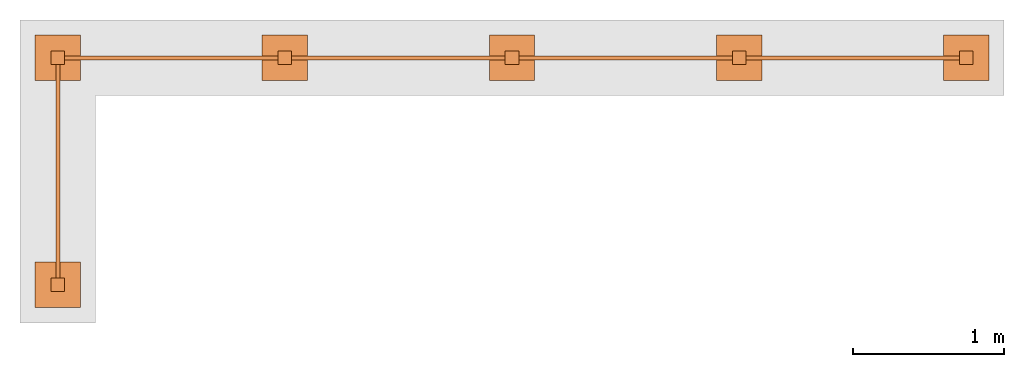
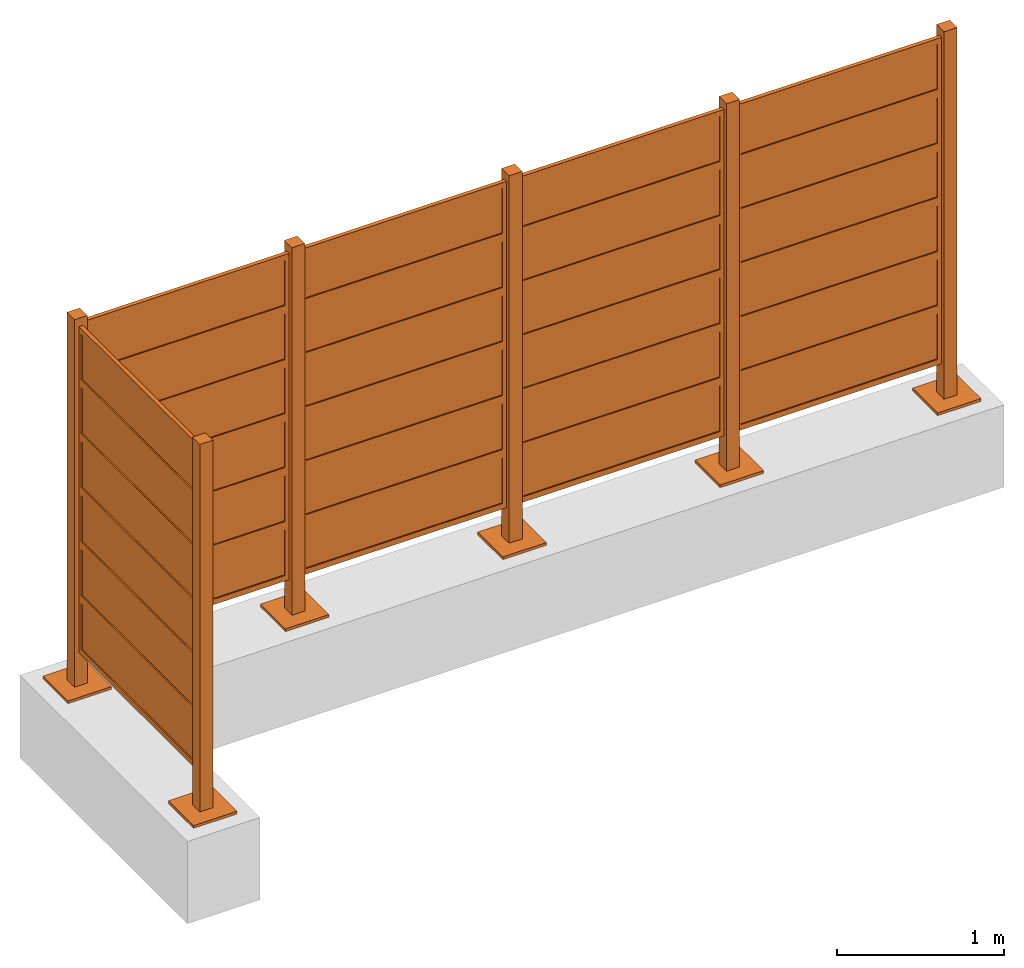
# One storey, part 2 of 2: 1 proxy.
"""IFC4 building model written with IfcOpenShell, lengths in metres."""

import ifcopenshell
import ifcopenshell.guid

model = None  # the IFC model being written
_history = None  # IfcOwnerHistory: only IFC2X3 demands one
_inside = {}  # id of a spatial element -> (the spatial element, [elements in it])
_under = {}  # id of a project, library or spatial element -> (it, [spatial elements below it])
_declared = {}  # id of a project -> (the project, [libraries it declares])
_typed = {}  # id of a type object -> (the type object, [elements of that type])
_made_of = {}  # id of a material, layer set ... -> (it, [elements and type objects made of it])


def new_model(schema):
    """Start an empty IFC model of exactly this schema.

    Asked for "IFC4X3", IfcOpenShell would pick the latest addendum, in which some entities
    have other attributes; the version numbers below select the first issue.
    IFC2X3 requires an IfcOwnerHistory on every rooted entity: one is made here for all.
    """
    global model, _history
    if schema == "IFC4X3":
        model = ifcopenshell.file(schema_version=(4, 3, 0, 0))
    else:
        model = ifcopenshell.file(schema=schema)
    _inside.clear()
    _under.clear()
    _declared.clear()
    _typed.clear()
    _made_of.clear()
    _history = None
    if model.schema == "IFC2X3":
        org = make("IfcOrganization", Name="unknown")
        user = make(
            "IfcPersonAndOrganization",
            ThePerson=make("IfcPerson", FamilyName="unknown"),
            TheOrganization=org,
        )
        app = make(
            "IfcApplication",
            ApplicationDeveloper=org,
            Version="unknown",
            ApplicationFullName="unknown",
            ApplicationIdentifier="unknown",
        )
        _history = make(
            "IfcOwnerHistory",
            OwningUser=user,
            OwningApplication=app,
            ChangeAction="ADDED",
            CreationDate=0,
        )
    return model


def make(cls, **values):
    """One entity of the class cls with the attributes given. An attribute that is None is left unset."""
    return model.create_entity(
        cls, **{name: value for name, value in values.items() if value is not None}
    )


def entity(cls, *values):
    """Any entity or typed value of the class cls, its attributes in the order of the schema. None: left unset."""
    e = model.create_entity(cls)
    for i, value in enumerate(values):
        if value is not None:
            e[i] = value
    return e


def rooted(cls, **values):
    """An entity with a GlobalId (a new one), such as an element, a storey or a relation."""
    return make(cls, GlobalId=ifcopenshell.guid.new(), OwnerHistory=_history, **values)


def si_unit(unit_type, name, prefix=None):
    """IfcSIUnit, for example si_unit("LENGTHUNIT", "METRE", prefix="MILLI")."""
    return make("IfcSIUnit", UnitType=unit_type, Prefix=prefix, Name=name)


def converted_unit(unit_type, name, factor, base, dimensions=None, offset=None):
    """IfcConversionBasedUnit, such as the inch: factor (a typed value) times the base unit."""
    return make(
        "IfcConversionBasedUnit"
        if offset is None
        else "IfcConversionBasedUnitWithOffset",
        ConversionOffset=offset,
        Dimensions=None
        if dimensions is None
        else entity("IfcDimensionalExponents", *dimensions),
        UnitType=unit_type,
        Name=name,
        ConversionFactor=make(
            "IfcMeasureWithUnit", ValueComponent=factor, UnitComponent=base
        ),
    )


def assignment(units):
    """IfcUnitAssignment: the units of a project."""
    return None if units is None else make("IfcUnitAssignment", Units=units)


def point(xyz):
    """IfcCartesianPoint."""
    return None if xyz is None else make("IfcCartesianPoint", Coordinates=xyz)


def direction(xyz):
    """IfcDirection."""
    return None if xyz is None else make("IfcDirection", DirectionRatios=xyz)


def frame(location, z_axis=None, x_axis=None):
    """IfcAxis2Placement3D, a coordinate frame: its origin and axes. An axis left out is left unset."""
    return make(
        "IfcAxis2Placement3D",
        Location=point(location),
        Axis=direction(z_axis),
        RefDirection=direction(x_axis),
    )


def frame_2d(location, x_axis=None):
    """IfcAxis2Placement2D, a coordinate frame in the plane: its origin and x axis."""
    return make(
        "IfcAxis2Placement2D", Location=point(location), RefDirection=direction(x_axis)
    )


def origin():
    """The frame at (0, 0, 0) with its axes left unset."""
    return frame((0.0, 0.0, 0.0))


def origin_2d_with_axis():
    """The frame at (0, 0) in the plane with the x axis (1, 0) written out."""
    return frame_2d((0.0, 0.0), x_axis=(1.0, 0.0))


def place(relative_to, where):
    """IfcLocalPlacement: puts the frame where relative to a parent placement (None: the world)."""
    return make(
        "IfcLocalPlacement", PlacementRelTo=relative_to, RelativePlacement=where
    )


def context(
    kind, dimensions, precision=None, world=None, true_north=None, identifier=None
):
    """IfcGeometricRepresentationContext, for example the 3D "Model" context."""
    return make(
        "IfcGeometricRepresentationContext",
        ContextIdentifier=identifier,
        ContextType=kind,
        CoordinateSpaceDimension=dimensions,
        Precision=precision,
        WorldCoordinateSystem=world,
        TrueNorth=true_north,
    )


def subcontext(parent, identifier, kind, view, scale=None):
    """IfcGeometricRepresentationSubContext, for example "Body" below "Model"."""
    return make(
        "IfcGeometricRepresentationSubContext",
        ContextIdentifier=identifier,
        ContextType=kind,
        ParentContext=parent,
        TargetScale=scale,
        TargetView=view,
    )


def project(units=None, contexts=None):
    """IfcProject with its units and contexts."""
    return rooted(
        "IfcProject",
        Name="project",
        RepresentationContexts=contexts,
        UnitsInContext=assignment(units),
    )


def spatial(cls, under=None, at=None, **own):
    """A site, building, storey or space (cls), placed at a placement, below another one or the project."""
    s = rooted(cls, ObjectPlacement=at, **own)
    if under is not None:
        _under.setdefault(under.id(), (under, []))[1].append(s)
    return s


def profile(cls, at=None, kind="AREA", **sizes):
    """A parametric profile (cls). Its sizes go by their IFC names, for example OverallWidth=200.0."""
    return make(cls, ProfileType=kind, Position=at, **sizes)


def rectangle(**sizes):
    """IfcRectangleProfileDef."""
    return profile("IfcRectangleProfileDef", **sizes)


def extrude(swept, where, along, depth):
    """IfcExtrudedAreaSolid: the profile swept, set in the frame where, extruded along a direction by depth."""
    return make(
        "IfcExtrudedAreaSolid",
        SweptArea=swept,
        Position=where,
        ExtrudedDirection=direction(along),
        Depth=depth,
    )


def shape(context_of_items, identifier, shape_type, items):
    """IfcShapeRepresentation: the items that make up one representation, for example the "Body"."""
    return make(
        "IfcShapeRepresentation",
        ContextOfItems=context_of_items,
        RepresentationIdentifier=identifier,
        RepresentationType=shape_type,
        Items=items,
    )


def source(mapping_origin, context_of_items, identifier, shape_type, items):
    """IfcRepresentationMap: a shape defined once, which mapped items show again and again."""
    return make(
        "IfcRepresentationMap",
        MappingOrigin=mapping_origin,
        MappedRepresentation=shape(context_of_items, identifier, shape_type, items),
    )


def transform(
    local_origin,
    x_axis=None,
    y_axis=None,
    z_axis=None,
    scale=None,
    scale2=None,
    scale3=None,
    uniform=True,
):
    """IfcCartesianTransformationOperator3D, or its non-uniform kind. x_axis, y_axis, z_axis: its Axis1, 2, 3."""
    if uniform:
        return make(
            "IfcCartesianTransformationOperator3D",
            Axis1=direction(x_axis),
            Axis2=direction(y_axis),
            LocalOrigin=point(local_origin),
            Scale=scale,
            Axis3=direction(z_axis),
        )
    return make(
        "IfcCartesianTransformationOperator3DnonUniform",
        Axis1=direction(x_axis),
        Axis2=direction(y_axis),
        LocalOrigin=point(local_origin),
        Scale=scale,
        Axis3=direction(z_axis),
        Scale2=scale2,
        Scale3=scale3,
    )


def mapped(mapping_source, mapping_target):
    """IfcMappedItem: shows the shape of a source again, moved by a transform."""
    return make(
        "IfcMappedItem", MappingSource=mapping_source, MappingTarget=mapping_target
    )


def material(Name=None, Category=None):
    """IfcMaterial."""
    return make("IfcMaterial", Name=Name, Category=Category)


def constituent(of_material, Name=None, Category=None, fraction=None):
    """IfcMaterialConstituent: one of the materials an element consists of."""
    return make(
        "IfcMaterialConstituent",
        Name=Name,
        Material=of_material,
        Fraction=fraction,
        Category=Category,
    )


def constituent_set(constituents=None, Name=None):
    """IfcMaterialConstituentSet."""
    return make(
        "IfcMaterialConstituentSet", Name=Name, MaterialConstituents=constituents
    )


def made_of(thing, what):
    """Note that an element or type object is made of a material, layer set ...; save() writes the relation."""
    if what is not None:
        _made_of.setdefault(what.id(), (what, []))[1].append(thing)
    return thing


def type_object(cls, material=None, **own):
    """A type object (cls), such as IfcWallType, which elements share."""
    return made_of(rooted(cls, **own), material)


def type_shapes(of_type, sources):
    """Give a type object the sources (RepresentationMaps) that its elements show as mapped items."""
    of_type.RepresentationMaps = sources


def element(
    cls,
    number,
    at=None,
    inside=None,
    cuts=None,
    type_object=None,
    material=None,
    context=None,
    identifier="Body",
    shape_type=None,
    held_by="IfcProductDefinitionShape",
    body=None,
    shapes=None,
    **own,
):
    """One element of the class cls, such as IfcWall. Its Tag is "e" and its number.

    at: its placement. inside: the storey or other place that contains it. cuts: it is an
    opening in that element (IfcRelVoidsElement). A single representation is given by context,
    identifier, shape_type and body (its items); several are given by shapes. held_by: the class
    of the entity that holds the representations. save() writes the other relations.
    """
    e = rooted(cls, Tag="e%d" % number, ObjectPlacement=at, **own)
    if body is not None:
        shapes = [shape(context, identifier, shape_type, body)]
    if shapes is not None:
        e.Representation = make(held_by, Representations=shapes)
    if inside is not None:
        _inside.setdefault(inside.id(), (inside, []))[1].append(e)
    if cuts is not None:
        rooted(
            "IfcRelVoidsElement", RelatingBuildingElement=cuts, RelatedOpeningElement=e
        )
    if type_object is not None:
        _typed.setdefault(type_object.id(), (type_object, []))[1].append(e)
    return made_of(e, material)


def aggregate(whole, parts):
    """IfcRelAggregates: a whole, such as a stair, and the parts it consists of."""
    return rooted("IfcRelAggregates", RelatingObject=whole, RelatedObjects=parts)


def save(model, path):
    """Write the relations noted so far, then the file.

    IfcRelAggregates (storeys below a building ...), IfcRelContainedInSpatialStructure (elements
    in a storey), IfcRelDefinesByType, IfcRelAssociatesMaterial and IfcRelDeclares: one each for
    every whole, place, type object, material and project.
    """
    for whole, parts in _under.values():
        aggregate(whole, parts)
    for where, things in _inside.values():
        rooted(
            "IfcRelContainedInSpatialStructure",
            RelatedElements=things,
            RelatingStructure=where,
        )
    for kind, things in _typed.values():
        rooted("IfcRelDefinesByType", RelatedObjects=things, RelatingType=kind)
    for what, things in _made_of.values():
        rooted("IfcRelAssociatesMaterial", RelatedObjects=things, RelatingMaterial=what)
    for by, libraries in _declared.values():
        rooted("IfcRelDeclares", RelatingContext=by, RelatedDefinitions=libraries)
    model.write(path)


model = new_model("IFC4")

# Units and contexts
model_context = context("Model", 3, precision=1e-05, world=origin(), true_north=direction((6.123031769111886e-17, 1.0)))
body_context = subcontext(model_context, "Body", "Model", "MODEL_VIEW")
ifc_project = project(units=[si_unit("LENGTHUNIT", "METRE"), converted_unit("PLANEANGLEUNIT", "DEGREE", entity("IfcPlaneAngleMeasure", 0.017453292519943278), si_unit("PLANEANGLEUNIT", "RADIAN"), dimensions=[0, 0, 0, 0, 0, 0, 0]), si_unit("AREAUNIT", "SQUARE_METRE")], contexts=[model_context])

# Site, building, storey
site_placement = place(None, origin())
site = spatial("IfcSite", under=ifc_project, at=site_placement, Name="Default", CompositionType="ELEMENT")
building_placement = place(site_placement, origin())
building = spatial("IfcBuilding", under=site, at=building_placement, CompositionType="ELEMENT")
storey_placement = place(building_placement, origin())
storey = spatial("IfcBuildingStorey", under=building, at=storey_placement, Name="DB_Bezugshoehe_max_Bahnsteigkante", CompositionType="ELEMENT", Elevation=0.0)

# Proxy
ifc_material_1 = material(Name="DB_ESG/VSG_klar", Category="DB_Glas")
ifc_constituent_1 = constituent(ifc_material_1, Name="DB_ESG/VSG_klar", Category="DB_Glas")
ifc_material_2 = material(Name="DB_Aluminium_RAL7035", Category="DB_Aluminium")
ifc_constituent_2 = constituent(ifc_material_2, Name="DB_Aluminium_RAL7035", Category="DB_Aluminium")
ifc_material_3 = material(Name="DB_Stahl_verzinkt_RAL9006", Category="DB_Stahl")
ifc_constituent_3 = constituent(ifc_material_3, Name="DB_Stahl_verzinkt_RAL9006", Category="DB_Stahl")
ifc_material_4 = material(Name="DB_Aluminium_RAL9007", Category="DB_Aluminium")
ifc_constituent_4 = constituent(ifc_material_4, Name="DB_Aluminium_RAL9007", Category="DB_Aluminium")
ifc_constituent_set_1 = constituent_set(constituents=[ifc_constituent_1, ifc_constituent_2, ifc_constituent_3, ifc_constituent_4])
ifc_constituent_5 = constituent(ifc_material_1, Name="DB_FAM_Volumen", Category="DB_Glas")
ifc_constituent_6 = constituent(ifc_material_2, Name="DB_FAM_Volumen", Category="DB_Aluminium")
ifc_constituent_7 = constituent(ifc_material_3, Name="DB_FAM_Volumen", Category="DB_Stahl")
ifc_constituent_8 = constituent(ifc_material_4, Name="DB_FAM_Volumen", Category="DB_Aluminium")
ifc_constituent_set_2 = constituent_set(constituents=[ifc_constituent_5, ifc_constituent_6, ifc_constituent_7, ifc_constituent_8])
building_element_proxy_type = type_object("IfcBuildingElementProxyType", Name="DB_Windschutz 4-feldrig L-Form:DB_Windschutz 4-feldrig L-Form", PredefinedType="NOTDEFINED", material=ifc_constituent_set_2)
shared_shape = source(origin(), body_context, "Body", "SweptSolid", [
    extrude(rectangle(XDim=0.009999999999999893, YDim=1.3549999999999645, at=frame_2d((0.0, -2.7755575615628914e-16), x_axis=(1.0, 0.0))), frame((2.2500000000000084, 1.5000000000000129, 0.10000000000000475), z_axis=(0.0, 0.0, 1.0), x_axis=(0.0, 1.0, 0.0)), (0.0, 0.0, 1.0), 0.334),
    extrude(rectangle(XDim=0.009999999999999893, YDim=1.3549999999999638, at=origin_2d_with_axis()), frame((2.250000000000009, 1.5000000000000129, 0.4940000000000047), z_axis=(0.0, 0.0, 1.0), x_axis=(0.0, 1.0, 0.0)), (0.0, 0.0, 1.0), 0.3340000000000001),
    extrude(rectangle(XDim=0.009999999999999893, YDim=1.3549999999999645, at=frame_2d((0.0, 2.7755575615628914e-16), x_axis=(1.0, 0.0))), frame((2.2500000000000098, 1.5000000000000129, 0.8880000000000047), z_axis=(0.0, 0.0, 1.0), x_axis=(0.0, 1.0, 0.0)), (0.0, 0.0, 1.0), 0.33400000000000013),
    extrude(rectangle(XDim=0.009999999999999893, YDim=1.3549999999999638, at=origin_2d_with_axis()), frame((2.2500000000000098, 1.5000000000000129, 1.2820000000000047), z_axis=(0.0, 0.0, 1.0), x_axis=(0.0, 1.0, 0.0)), (0.0, 0.0, 1.0), 0.33400000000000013),
    extrude(rectangle(XDim=0.009999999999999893, YDim=1.3549999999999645, at=frame_2d((0.0, -2.7755575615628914e-16), x_axis=(1.0, 0.0))), frame((2.2500000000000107, 1.5000000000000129, 1.6760000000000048), z_axis=(0.0, 0.0, 1.0), x_axis=(0.0, 1.0, 0.0)), (0.0, 0.0, 1.0), 0.33399999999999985),
    extrude(rectangle(XDim=0.009999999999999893, YDim=1.3549999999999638, at=origin_2d_with_axis()), frame((2.250000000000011, 1.5000000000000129, 2.0700000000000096), z_axis=(0.0, 0.0, 1.0), x_axis=(0.0, 1.0, 0.0)), (0.0, 0.0, 1.0), 0.3300000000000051),
    extrude(rectangle(XDim=0.027600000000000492, YDim=1.354999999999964, at=frame_2d((-1.3530843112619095e-16, -5.551115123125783e-16), x_axis=(1.0, 0.0))), frame((2.250000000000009, 1.4999999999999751, 0.06000000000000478), z_axis=(0.0, 0.0, 1.0), x_axis=(0.0, 1.0, 0.0)), (0.0, 0.0, 1.0), 0.04),
    extrude(rectangle(XDim=0.027600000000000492, YDim=1.354999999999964, at=frame_2d((-1.3530843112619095e-16, -5.551115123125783e-16), x_axis=(1.0, 0.0))), frame((2.2500000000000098, 1.4999999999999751, 0.4340000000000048), z_axis=(0.0, 0.0, 1.0), x_axis=(0.0, 1.0, 0.0)), (0.0, 0.0, 1.0), 0.059999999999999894),
    extrude(rectangle(XDim=0.027600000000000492, YDim=1.354999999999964, at=frame_2d((-1.3530843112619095e-16, -5.551115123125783e-16), x_axis=(1.0, 0.0))), frame((2.2500000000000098, 1.4999999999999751, 0.8280000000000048), z_axis=(0.0, 0.0, 1.0), x_axis=(0.0, 1.0, 0.0)), (0.0, 0.0, 1.0), 0.059999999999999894),
    extrude(rectangle(XDim=0.027600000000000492, YDim=1.354999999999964, at=frame_2d((-1.3530843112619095e-16, -5.551115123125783e-16), x_axis=(1.0, 0.0))), frame((2.2500000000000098, 1.4999999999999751, 1.2220000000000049), z_axis=(0.0, 0.0, 1.0), x_axis=(0.0, 1.0, 0.0)), (0.0, 0.0, 1.0), 0.059999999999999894),
    extrude(rectangle(XDim=0.027600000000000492, YDim=1.354999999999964, at=frame_2d((-1.3530843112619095e-16, -5.551115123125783e-16), x_axis=(1.0, 0.0))), frame((2.2500000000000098, 1.4999999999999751, 1.616000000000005), z_axis=(0.0, 0.0, 1.0), x_axis=(0.0, 1.0, 0.0)), (0.0, 0.0, 1.0), 0.059999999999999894),
    extrude(rectangle(XDim=0.027600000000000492, YDim=1.354999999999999, at=frame_2d((-1.3530843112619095e-16, -1.6653345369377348e-16), x_axis=(1.0, 0.0))), frame((2.2499999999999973, 1.4999999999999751, 2.40000000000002), z_axis=(0.0, 0.0, 1.0), x_axis=(0.0, 1.0, 0.0)), (0.0, 0.0, 1.0), 0.04000000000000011),
    extrude(rectangle(XDim=0.027600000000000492, YDim=1.354999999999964, at=frame_2d((-1.3530843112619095e-16, -5.551115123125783e-16), x_axis=(1.0, 0.0))), frame((2.250000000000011, 1.4999999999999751, 2.0100000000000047), z_axis=(0.0, 0.0, 1.0), x_axis=(0.0, 1.0, 0.0)), (0.0, 0.0, 1.0), 0.059999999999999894),
    extrude(rectangle(XDim=0.02760000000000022, YDim=0.027499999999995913, at=origin_2d_with_axis()), frame((1.558749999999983, 1.50000000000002, 0.05999999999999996), z_axis=(0.0, 0.0, 1.0), x_axis=(0.0, 1.0, 0.0)), (0.0, 0.0, 1.0), 2.3800000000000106),
    extrude(rectangle(XDim=0.027600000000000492, YDim=0.027499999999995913, at=frame_2d((-1.3530843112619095e-16, 0.0), x_axis=(1.0, 0.0))), frame((2.9412499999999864, 1.4999999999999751, 0.05999999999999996), z_axis=(0.0, 0.0, 1.0), x_axis=(0.0, 1.0, 0.0)), (0.0, 0.0, 1.0), 2.3800000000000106),
    extrude(rectangle(XDim=0.009999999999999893, YDim=1.354999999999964, at=frame_2d((0.0, 1.1102230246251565e-16), x_axis=(1.0, 0.0))), frame((0.7500000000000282, 1.5000000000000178, 0.10000000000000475), z_axis=(0.0, 0.0, 1.0), x_axis=(0.0, 1.0, 0.0)), (0.0, 0.0, 1.0), 0.334),
    extrude(rectangle(XDim=0.009999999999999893, YDim=1.354999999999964, at=frame_2d((0.0, -1.1102230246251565e-16), x_axis=(1.0, 0.0))), frame((0.7500000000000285, 1.5000000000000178, 0.4940000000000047), z_axis=(0.0, 0.0, 1.0), x_axis=(0.0, 1.0, 0.0)), (0.0, 0.0, 1.0), 0.3340000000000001),
    extrude(rectangle(XDim=0.009999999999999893, YDim=1.354999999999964, at=frame_2d((0.0, 1.1102230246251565e-16), x_axis=(1.0, 0.0))), frame((0.7500000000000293, 1.5000000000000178, 0.8880000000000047), z_axis=(0.0, 0.0, 1.0), x_axis=(0.0, 1.0, 0.0)), (0.0, 0.0, 1.0), 0.33400000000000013),
    extrude(rectangle(XDim=0.009999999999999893, YDim=1.354999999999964, at=frame_2d((0.0, -1.1102230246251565e-16), x_axis=(1.0, 0.0))), frame((0.7500000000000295, 1.5000000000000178, 1.2820000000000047), z_axis=(0.0, 0.0, 1.0), x_axis=(0.0, 1.0, 0.0)), (0.0, 0.0, 1.0), 0.33400000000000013),
    extrude(rectangle(XDim=0.009999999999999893, YDim=1.354999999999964, at=frame_2d((0.0, 1.1102230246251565e-16), x_axis=(1.0, 0.0))), frame((0.7500000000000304, 1.5000000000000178, 1.6760000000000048), z_axis=(0.0, 0.0, 1.0), x_axis=(0.0, 1.0, 0.0)), (0.0, 0.0, 1.0), 0.33399999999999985),
    extrude(rectangle(XDim=0.009999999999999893, YDim=1.354999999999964, at=frame_2d((0.0, -1.1102230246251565e-16), x_axis=(1.0, 0.0))), frame((0.7500000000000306, 1.5000000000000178, 2.0700000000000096), z_axis=(0.0, 0.0, 1.0), x_axis=(0.0, 1.0, 0.0)), (0.0, 0.0, 1.0), 0.3300000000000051),
    extrude(rectangle(XDim=0.027600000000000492, YDim=1.3549999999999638, at=frame_2d((-1.3530843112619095e-16, 0.0), x_axis=(1.0, 0.0))), frame((0.7500000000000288, 1.49999999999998, 0.06000000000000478), z_axis=(0.0, 0.0, 1.0), x_axis=(0.0, 1.0, 0.0)), (0.0, 0.0, 1.0), 0.04),
    extrude(rectangle(XDim=0.027600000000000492, YDim=1.3549999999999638, at=frame_2d((-1.3530843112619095e-16, 0.0), x_axis=(1.0, 0.0))), frame((0.7500000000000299, 1.49999999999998, 0.4340000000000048), z_axis=(0.0, 0.0, 1.0), x_axis=(0.0, 1.0, 0.0)), (0.0, 0.0, 1.0), 0.059999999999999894),
    extrude(rectangle(XDim=0.027600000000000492, YDim=1.3549999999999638, at=frame_2d((-1.3530843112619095e-16, 0.0), x_axis=(1.0, 0.0))), frame((0.7500000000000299, 1.49999999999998, 0.8280000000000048), z_axis=(0.0, 0.0, 1.0), x_axis=(0.0, 1.0, 0.0)), (0.0, 0.0, 1.0), 0.059999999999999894),
    extrude(rectangle(XDim=0.027600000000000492, YDim=1.3549999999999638, at=frame_2d((-1.3530843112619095e-16, 0.0), x_axis=(1.0, 0.0))), frame((0.7500000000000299, 1.49999999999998, 1.2220000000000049), z_axis=(0.0, 0.0, 1.0), x_axis=(0.0, 1.0, 0.0)), (0.0, 0.0, 1.0), 0.059999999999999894),
    extrude(rectangle(XDim=0.027600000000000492, YDim=1.3549999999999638, at=frame_2d((-1.3530843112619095e-16, 0.0), x_axis=(1.0, 0.0))), frame((0.7500000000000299, 1.49999999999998, 1.616000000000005), z_axis=(0.0, 0.0, 1.0), x_axis=(0.0, 1.0, 0.0)), (0.0, 0.0, 1.0), 0.059999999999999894),
    extrude(rectangle(XDim=0.027600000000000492, YDim=1.3549999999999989, at=frame_2d((-1.3530843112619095e-16, 0.0), x_axis=(1.0, 0.0))), frame((0.7500000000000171, 1.49999999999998, 2.40000000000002), z_axis=(0.0, 0.0, 1.0), x_axis=(0.0, 1.0, 0.0)), (0.0, 0.0, 1.0), 0.04000000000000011),
    extrude(rectangle(XDim=0.027600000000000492, YDim=1.3549999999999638, at=frame_2d((-1.3530843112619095e-16, 0.0), x_axis=(1.0, 0.0))), frame((0.750000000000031, 1.49999999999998, 2.0100000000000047), z_axis=(0.0, 0.0, 1.0), x_axis=(0.0, 1.0, 0.0)), (0.0, 0.0, 1.0), 0.059999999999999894),
    extrude(rectangle(XDim=0.02760000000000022, YDim=0.027499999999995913, at=origin_2d_with_axis()), frame((0.05875000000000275, 1.5000000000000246, 0.05999999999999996), z_axis=(0.0, 0.0, 1.0), x_axis=(0.0, 1.0, 0.0)), (0.0, 0.0, 1.0), 2.3800000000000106),
    extrude(rectangle(XDim=0.027600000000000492, YDim=0.027499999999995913, at=frame_2d((-1.3530843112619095e-16, 0.0), x_axis=(1.0, 0.0))), frame((1.4412500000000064, 1.49999999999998, 0.05999999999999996), z_axis=(0.0, 0.0, 1.0), x_axis=(0.0, 1.0, 0.0)), (0.0, 0.0, 1.0), 2.3800000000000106),
    extrude(rectangle(XDim=0.009999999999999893, YDim=1.354999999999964, at=frame_2d((0.0, 1.6653345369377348e-16), x_axis=(1.0, 0.0))), frame((-1.4999999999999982, 0.7500000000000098, 0.10000000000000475)), (0.0, 0.0, 1.0), 0.334),
    extrude(rectangle(XDim=0.009999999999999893, YDim=1.354999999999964, at=frame_2d((0.0, 1.6653345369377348e-16), x_axis=(1.0, 0.0))), frame((-1.4999999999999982, 0.7500000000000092, 0.4940000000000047)), (0.0, 0.0, 1.0), 0.3340000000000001),
    extrude(rectangle(XDim=0.009999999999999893, YDim=1.354999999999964, at=frame_2d((0.0, 1.6653345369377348e-16), x_axis=(1.0, 0.0))), frame((-1.4999999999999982, 0.7500000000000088, 0.8880000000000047)), (0.0, 0.0, 1.0), 0.33400000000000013),
    extrude(rectangle(XDim=0.009999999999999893, YDim=1.354999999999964, at=frame_2d((0.0, 1.6653345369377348e-16), x_axis=(1.0, 0.0))), frame((-1.4999999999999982, 0.7500000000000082, 1.2820000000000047)), (0.0, 0.0, 1.0), 0.33400000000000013),
    extrude(rectangle(XDim=0.009999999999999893, YDim=1.354999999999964, at=frame_2d((0.0, 1.6653345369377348e-16), x_axis=(1.0, 0.0))), frame((-1.4999999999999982, 0.7500000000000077, 1.6760000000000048)), (0.0, 0.0, 1.0), 0.33399999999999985),
    extrude(rectangle(XDim=0.009999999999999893, YDim=1.354999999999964, at=frame_2d((0.0, 1.6653345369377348e-16), x_axis=(1.0, 0.0))), frame((-1.4999999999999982, 0.7500000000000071, 2.0700000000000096)), (0.0, 0.0, 1.0), 0.3300000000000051),
    extrude(rectangle(XDim=0.02760000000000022, YDim=1.3549999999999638, at=origin_2d_with_axis()), frame((-1.5000000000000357, 0.7500000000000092, 0.06000000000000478)), (0.0, 0.0, 1.0), 0.04),
    extrude(rectangle(XDim=0.02760000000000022, YDim=1.3549999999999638, at=origin_2d_with_axis()), frame((-1.5000000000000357, 0.7500000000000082, 0.4340000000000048)), (0.0, 0.0, 1.0), 0.059999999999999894),
    extrude(rectangle(XDim=0.02760000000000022, YDim=1.3549999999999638, at=origin_2d_with_axis()), frame((-1.5000000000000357, 0.7500000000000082, 0.8280000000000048)), (0.0, 0.0, 1.0), 0.059999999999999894),
    extrude(rectangle(XDim=0.02760000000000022, YDim=1.3549999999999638, at=origin_2d_with_axis()), frame((-1.5000000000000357, 0.7500000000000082, 1.2220000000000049)), (0.0, 0.0, 1.0), 0.059999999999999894),
    extrude(rectangle(XDim=0.02760000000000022, YDim=1.3549999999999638, at=origin_2d_with_axis()), frame((-1.5000000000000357, 0.7500000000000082, 1.616000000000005)), (0.0, 0.0, 1.0), 0.059999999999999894),
    extrude(rectangle(XDim=0.027600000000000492, YDim=1.3549999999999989, at=frame_2d((1.3530843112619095e-16, 0.0), x_axis=(1.0, 0.0))), frame((-1.5000000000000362, 0.7500000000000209, 2.40000000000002)), (0.0, 0.0, 1.0), 0.04000000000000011),
    extrude(rectangle(XDim=0.02760000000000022, YDim=1.3549999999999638, at=origin_2d_with_axis()), frame((-1.5000000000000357, 0.7500000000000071, 2.0100000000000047)), (0.0, 0.0, 1.0), 0.059999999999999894),
    extrude(rectangle(XDim=0.02760000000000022, YDim=0.027499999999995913, at=origin_2d_with_axis()), frame((-1.4999999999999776, 1.4412500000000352, 0.05999999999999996)), (0.0, 0.0, 1.0), 2.3800000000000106),
    extrude(rectangle(XDim=0.027600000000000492, YDim=0.027499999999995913, at=frame_2d((-1.3530843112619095e-16, 0.0), x_axis=(1.0, 0.0))), frame((-1.5000000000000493, 0.05875000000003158, 0.05999999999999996)), (0.0, 0.0, 1.0), 2.3800000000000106),
    extrude(rectangle(XDim=0.009999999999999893, YDim=1.354999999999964, at=origin_2d_with_axis()), frame((-0.7499999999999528, 1.5000000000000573, 0.10000000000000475), z_axis=(0.0, 0.0, 1.0), x_axis=(0.0, 1.0, 0.0)), (0.0, 0.0, 1.0), 0.334),
    extrude(rectangle(XDim=0.009999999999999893, YDim=1.354999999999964, at=origin_2d_with_axis()), frame((-0.7499999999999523, 1.5000000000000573, 0.4940000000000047), z_axis=(0.0, 0.0, 1.0), x_axis=(0.0, 1.0, 0.0)), (0.0, 0.0, 1.0), 0.3340000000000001),
    extrude(rectangle(XDim=0.009999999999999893, YDim=1.354999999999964, at=origin_2d_with_axis()), frame((-0.7499999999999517, 1.5000000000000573, 0.8880000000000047), z_axis=(0.0, 0.0, 1.0), x_axis=(0.0, 1.0, 0.0)), (0.0, 0.0, 1.0), 0.33400000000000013),
    extrude(rectangle(XDim=0.009999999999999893, YDim=1.354999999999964, at=origin_2d_with_axis()), frame((-0.7499999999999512, 1.5000000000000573, 1.2820000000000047), z_axis=(0.0, 0.0, 1.0), x_axis=(0.0, 1.0, 0.0)), (0.0, 0.0, 1.0), 0.33400000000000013),
    extrude(rectangle(XDim=0.009999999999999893, YDim=1.354999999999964, at=origin_2d_with_axis()), frame((-0.7499999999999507, 1.5000000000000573, 1.6760000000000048), z_axis=(0.0, 0.0, 1.0), x_axis=(0.0, 1.0, 0.0)), (0.0, 0.0, 1.0), 0.33399999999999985),
    extrude(rectangle(XDim=0.009999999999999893, YDim=1.354999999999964, at=origin_2d_with_axis()), frame((-0.7499999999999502, 1.5000000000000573, 2.0700000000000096), z_axis=(0.0, 0.0, 1.0), x_axis=(0.0, 1.0, 0.0)), (0.0, 0.0, 1.0), 0.3300000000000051),
    extrude(rectangle(XDim=0.027600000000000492, YDim=1.3549999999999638, at=frame_2d((-1.3530843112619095e-16, 0.0), x_axis=(1.0, 0.0))), frame((-0.7499999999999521, 1.5000000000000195, 0.06000000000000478), z_axis=(0.0, 0.0, 1.0), x_axis=(0.0, 1.0, 0.0)), (0.0, 0.0, 1.0), 0.04),
    extrude(rectangle(XDim=0.027600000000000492, YDim=1.3549999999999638, at=frame_2d((-1.3530843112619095e-16, 0.0), x_axis=(1.0, 0.0))), frame((-0.749999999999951, 1.5000000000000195, 0.4340000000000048), z_axis=(0.0, 0.0, 1.0), x_axis=(0.0, 1.0, 0.0)), (0.0, 0.0, 1.0), 0.059999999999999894),
    extrude(rectangle(XDim=0.027600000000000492, YDim=1.3549999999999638, at=frame_2d((-1.3530843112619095e-16, 0.0), x_axis=(1.0, 0.0))), frame((-0.749999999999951, 1.5000000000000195, 0.8280000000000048), z_axis=(0.0, 0.0, 1.0), x_axis=(0.0, 1.0, 0.0)), (0.0, 0.0, 1.0), 0.059999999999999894),
    extrude(rectangle(XDim=0.027600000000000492, YDim=1.3549999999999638, at=frame_2d((-1.3530843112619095e-16, 0.0), x_axis=(1.0, 0.0))), frame((-0.749999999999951, 1.5000000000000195, 1.2220000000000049), z_axis=(0.0, 0.0, 1.0), x_axis=(0.0, 1.0, 0.0)), (0.0, 0.0, 1.0), 0.059999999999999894),
    extrude(rectangle(XDim=0.027600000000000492, YDim=1.3549999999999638, at=frame_2d((-1.3530843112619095e-16, 0.0), x_axis=(1.0, 0.0))), frame((-0.749999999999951, 1.5000000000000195, 1.616000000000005), z_axis=(0.0, 0.0, 1.0), x_axis=(0.0, 1.0, 0.0)), (0.0, 0.0, 1.0), 0.059999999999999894),
    extrude(rectangle(XDim=0.027600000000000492, YDim=1.3549999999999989, at=frame_2d((-1.3530843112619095e-16, 0.0), x_axis=(1.0, 0.0))), frame((-0.7499999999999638, 1.5000000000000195, 2.40000000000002), z_axis=(0.0, 0.0, 1.0), x_axis=(0.0, 1.0, 0.0)), (0.0, 0.0, 1.0), 0.04000000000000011),
    extrude(rectangle(XDim=0.027600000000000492, YDim=1.3549999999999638, at=frame_2d((-1.3530843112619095e-16, 0.0), x_axis=(1.0, 0.0))), frame((-0.7499999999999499, 1.5000000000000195, 2.0100000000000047), z_axis=(0.0, 0.0, 1.0), x_axis=(0.0, 1.0, 0.0)), (0.0, 0.0, 1.0), 0.059999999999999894),
    extrude(rectangle(XDim=0.02760000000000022, YDim=0.027499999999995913, at=origin_2d_with_axis()), frame((-1.4412499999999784, 1.5000000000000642, 0.05999999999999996), z_axis=(0.0, 0.0, 1.0), x_axis=(0.0, 1.0, 0.0)), (0.0, 0.0, 1.0), 2.3800000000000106),
    extrude(rectangle(XDim=0.027600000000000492, YDim=0.027499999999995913, at=frame_2d((-1.3530843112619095e-16, 0.0), x_axis=(1.0, 0.0))), frame((-0.05874999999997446, 1.5000000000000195, 0.05999999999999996), z_axis=(0.0, 0.0, 1.0), x_axis=(0.0, 1.0, 0.0)), (0.0, 0.0, 1.0), 2.3800000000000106),
    extrude(rectangle(XDim=0.009999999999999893, YDim=1.3549999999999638, at=origin_2d_with_axis()), frame((3.7500000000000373, 1.5000000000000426, 0.10000000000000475), z_axis=(0.0, 0.0, 1.0), x_axis=(0.0, 1.0, 0.0)), (0.0, 0.0, 1.0), 0.334),
    extrude(rectangle(XDim=0.009999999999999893, YDim=1.3549999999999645, at=frame_2d((0.0, 2.7755575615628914e-16), x_axis=(1.0, 0.0))), frame((3.7500000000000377, 1.5000000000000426, 0.4940000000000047), z_axis=(0.0, 0.0, 1.0), x_axis=(0.0, 1.0, 0.0)), (0.0, 0.0, 1.0), 0.3340000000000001),
    extrude(rectangle(XDim=0.009999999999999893, YDim=1.3549999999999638, at=frame_2d((0.0, -5.551115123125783e-16), x_axis=(1.0, 0.0))), frame((3.7500000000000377, 1.5000000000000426, 0.8880000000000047), z_axis=(0.0, 0.0, 1.0), x_axis=(0.0, 1.0, 0.0)), (0.0, 0.0, 1.0), 0.33400000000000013),
    extrude(rectangle(XDim=0.009999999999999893, YDim=1.3549999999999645, at=frame_2d((0.0, 2.7755575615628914e-16), x_axis=(1.0, 0.0))), frame((3.7500000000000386, 1.5000000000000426, 1.2820000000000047), z_axis=(0.0, 0.0, 1.0), x_axis=(0.0, 1.0, 0.0)), (0.0, 0.0, 1.0), 0.33400000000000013),
    extrude(rectangle(XDim=0.009999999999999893, YDim=1.3549999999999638, at=origin_2d_with_axis()), frame((3.750000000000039, 1.5000000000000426, 1.6760000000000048), z_axis=(0.0, 0.0, 1.0), x_axis=(0.0, 1.0, 0.0)), (0.0, 0.0, 1.0), 0.33399999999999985),
    extrude(rectangle(XDim=0.009999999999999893, YDim=1.3549999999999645, at=frame_2d((0.0, -2.7755575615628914e-16), x_axis=(1.0, 0.0))), frame((3.750000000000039, 1.5000000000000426, 2.0700000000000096), z_axis=(0.0, 0.0, 1.0), x_axis=(0.0, 1.0, 0.0)), (0.0, 0.0, 1.0), 0.3300000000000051),
    extrude(rectangle(XDim=0.027600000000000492, YDim=1.3549999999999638, at=frame_2d((-1.3530843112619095e-16, 0.0), x_axis=(1.0, 0.0))), frame((3.7500000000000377, 1.5000000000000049, 0.06000000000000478), z_axis=(0.0, 0.0, 1.0), x_axis=(0.0, 1.0, 0.0)), (0.0, 0.0, 1.0), 0.04),
    extrude(rectangle(XDim=0.027600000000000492, YDim=1.3549999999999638, at=frame_2d((-1.3530843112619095e-16, 0.0), x_axis=(1.0, 0.0))), frame((3.7500000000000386, 1.5000000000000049, 0.4340000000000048), z_axis=(0.0, 0.0, 1.0), x_axis=(0.0, 1.0, 0.0)), (0.0, 0.0, 1.0), 0.059999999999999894),
    extrude(rectangle(XDim=0.027600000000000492, YDim=1.3549999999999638, at=frame_2d((-1.3530843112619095e-16, 0.0), x_axis=(1.0, 0.0))), frame((3.7500000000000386, 1.5000000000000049, 0.8280000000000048), z_axis=(0.0, 0.0, 1.0), x_axis=(0.0, 1.0, 0.0)), (0.0, 0.0, 1.0), 0.059999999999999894),
    extrude(rectangle(XDim=0.027600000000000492, YDim=1.3549999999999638, at=frame_2d((-1.3530843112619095e-16, 0.0), x_axis=(1.0, 0.0))), frame((3.7500000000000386, 1.5000000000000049, 1.2220000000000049), z_axis=(0.0, 0.0, 1.0), x_axis=(0.0, 1.0, 0.0)), (0.0, 0.0, 1.0), 0.059999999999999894),
    extrude(rectangle(XDim=0.027600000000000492, YDim=1.3549999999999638, at=frame_2d((-1.3530843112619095e-16, 0.0), x_axis=(1.0, 0.0))), frame((3.7500000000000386, 1.5000000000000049, 1.616000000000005), z_axis=(0.0, 0.0, 1.0), x_axis=(0.0, 1.0, 0.0)), (0.0, 0.0, 1.0), 0.059999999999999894),
    extrude(rectangle(XDim=0.027600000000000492, YDim=1.354999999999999, at=frame_2d((-1.3530843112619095e-16, 2.7755575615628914e-16), x_axis=(1.0, 0.0))), frame((3.750000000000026, 1.5000000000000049, 2.40000000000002), z_axis=(0.0, 0.0, 1.0), x_axis=(0.0, 1.0, 0.0)), (0.0, 0.0, 1.0), 0.04000000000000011),
    extrude(rectangle(XDim=0.027600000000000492, YDim=1.3549999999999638, at=frame_2d((-1.3530843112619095e-16, 0.0), x_axis=(1.0, 0.0))), frame((3.75000000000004, 1.5000000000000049, 2.0100000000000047), z_axis=(0.0, 0.0, 1.0), x_axis=(0.0, 1.0, 0.0)), (0.0, 0.0, 1.0), 0.059999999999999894),
    extrude(rectangle(XDim=0.02760000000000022, YDim=0.027499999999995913, at=origin_2d_with_axis()), frame((3.058750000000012, 1.5000000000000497, 0.05999999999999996), z_axis=(0.0, 0.0, 1.0), x_axis=(0.0, 1.0, 0.0)), (0.0, 0.0, 1.0), 2.3800000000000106),
    extrude(rectangle(XDim=0.027600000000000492, YDim=0.027499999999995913, at=frame_2d((-1.3530843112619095e-16, 0.0), x_axis=(1.0, 0.0))), frame((4.441250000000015, 1.5000000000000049, 0.05999999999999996), z_axis=(0.0, 0.0, 1.0), x_axis=(0.0, 1.0, 0.0)), (0.0, 0.0, 1.0), 2.3800000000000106),
    extrude(rectangle(XDim=0.2999999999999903, YDim=0.3000000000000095, at=frame_2d((0.0, 1.3877787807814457e-16), x_axis=(1.0, 0.0))), frame((-1.4999999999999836, 1.4999999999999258, -0.19999999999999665), z_axis=(0.0, 0.0, 1.0), x_axis=(-1.0, 0.0, 0.0)), (0.0, 0.0, 1.0), 0.019999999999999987),
    extrude(rectangle(XDim=0.29999999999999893, YDim=0.3000000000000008, at=frame_2d((0.0, 1.3877787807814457e-16), x_axis=(1.0, 0.0))), frame((4.500000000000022, 1.4999999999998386, -0.19999999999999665), z_axis=(0.0, 0.0, 1.0), x_axis=(-1.0, 0.0, 0.0)), (0.0, 0.0, 1.0), 0.019999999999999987),
    extrude(rectangle(XDim=0.2999999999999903, YDim=0.3000000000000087, at=origin_2d_with_axis()), frame((1.5000000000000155, 1.4999999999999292, -0.19999999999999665), z_axis=(0.0, 0.0, 1.0), x_axis=(-1.0, 0.0, 0.0)), (0.0, 0.0, 1.0), 0.019999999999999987),
    extrude(rectangle(XDim=0.30000000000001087, YDim=0.2999999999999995, at=origin_2d_with_axis()), frame((3.0, 1.499999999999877, -0.19999999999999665), z_axis=(0.0, 0.0, 1.0), x_axis=(-1.0, 0.0, 0.0)), (0.0, 0.0, 1.0), 0.019999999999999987),
    extrude(rectangle(XDim=0.2999999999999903, YDim=0.3000000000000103, at=origin_2d_with_axis()), frame((0.0, 1.49999999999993, -0.19999999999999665), z_axis=(0.0, 0.0, 1.0), x_axis=(-1.0, 0.0, 0.0)), (0.0, 0.0, 1.0), 0.019999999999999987),
    extrude(rectangle(XDim=0.09000000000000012, YDim=0.09000000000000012, at=frame_2d((0.0, 5.412337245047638e-16), x_axis=(1.0, 0.0))), frame((4.500000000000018, 1.4999999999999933, 0.0), z_axis=(0.0, 0.0, 1.0), x_axis=(0.0, 1.0, 0.0)), (0.0, 0.0, 1.0), 2.5000000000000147),
    extrude(rectangle(XDim=0.09000000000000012, YDim=0.09000000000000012, at=origin_2d_with_axis()), frame((3.0, 1.4999999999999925, 0.0), z_axis=(0.0, 0.0, 1.0), x_axis=(0.0, 1.0, 0.0)), (0.0, 0.0, 1.0), 2.5000000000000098),
    extrude(rectangle(XDim=0.09000000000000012, YDim=0.09000000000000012, at=origin_2d_with_axis()), frame((1.500000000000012, 1.5000000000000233, 0.0), z_axis=(0.0, 0.0, 1.0), x_axis=(0.0, 1.0, 0.0)), (0.0, 0.0, 1.0), 2.500000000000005),
    extrude(rectangle(XDim=0.09000000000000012, YDim=0.09000000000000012, at=origin_2d_with_axis()), frame((0.0, 1.4999999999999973, 0.0), z_axis=(0.0, 0.0, 1.0), x_axis=(-1.0, 0.0, 0.0)), (0.0, 0.0, 1.0), 2.500000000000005),
    extrude(rectangle(XDim=0.29999999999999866, YDim=0.2999999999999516, at=frame_2d((0.0, -1.3877787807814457e-16), x_axis=(1.0, 0.0))), frame((-1.4999999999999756, 0.0, -0.19999999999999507), z_axis=(0.0, 0.0, 1.0), x_axis=(0.0, -1.0, 0.0)), (0.0, 0.0, 1.0), 0.019999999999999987),
    extrude(rectangle(XDim=0.08999999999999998, YDim=0.08999999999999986, at=frame_2d((0.0, -1.3530843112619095e-16), x_axis=(1.0, 0.0))), frame((-1.4999999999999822, 0.0, 0.0), z_axis=(0.0, 0.0, 1.0), x_axis=(0.0, 1.0, 0.0)), (0.0, 0.0, 1.0), 2.5),
    extrude(rectangle(XDim=0.09000000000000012, YDim=0.09000000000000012, at=origin_2d_with_axis()), frame((-1.4999999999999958, 1.5000000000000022, 0.0), z_axis=(0.0, 0.0, 1.0), x_axis=(-1.0, 0.0, 0.0)), (0.0, 0.0, 1.0), 2.500000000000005),
    extrude(rectangle(XDim=0.08999999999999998, YDim=0.08999999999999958, at=origin_2d_with_axis()), frame((-1.4999999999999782, 0.0, -0.18000000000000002), z_axis=(0.0, 0.0, 1.0), x_axis=(0.0, 1.0, 0.0)), (0.0, 0.0, 1.0), 0.1799999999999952),
    extrude(rectangle(XDim=0.08999999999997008, YDim=0.09000000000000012, at=frame_2d((1.3530843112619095e-16, 0.0), x_axis=(1.0, 0.0))), frame((4.500000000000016, 1.5000000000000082, -0.18000000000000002), z_axis=(0.0, 0.0, 1.0), x_axis=(0.0, 1.0, 0.0)), (0.0, 0.0, 1.0), 0.1799999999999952),
    extrude(rectangle(XDim=0.08999999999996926, YDim=0.09000000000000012, at=origin_2d_with_axis()), frame((3.0, 1.500000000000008, -0.18000000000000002), z_axis=(0.0, 0.0, 1.0), x_axis=(0.0, 1.0, 0.0)), (0.0, 0.0, 1.0), 0.1800000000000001),
    extrude(rectangle(XDim=0.0899999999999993, YDim=0.08999999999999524, at=frame_2d((-1.3530843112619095e-16, 0.0), x_axis=(1.0, 0.0))), frame((1.5000000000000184, 1.4999999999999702, -0.18000000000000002), z_axis=(0.0, 0.0, 1.0), x_axis=(0.0, 1.0, 0.0)), (0.0, 0.0, 1.0), 0.1799999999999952),
    extrude(rectangle(XDim=0.08999999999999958, YDim=0.08999999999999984, at=origin_2d_with_axis()), frame((0.0, 1.4999999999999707, -0.18000000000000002), z_axis=(0.0, 0.0, 1.0), x_axis=(0.0, 1.0, 0.0)), (0.0, 0.0, 1.0), 0.1799999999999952),
    extrude(rectangle(XDim=0.08999999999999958, YDim=0.08999999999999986, at=frame_2d((0.0, 1.3530843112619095e-16), x_axis=(1.0, 0.0))), frame((-1.499999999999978, 1.4999999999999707, -0.18000000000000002), z_axis=(0.0, 0.0, 1.0), x_axis=(0.0, 1.0, 0.0)), (0.0, 0.0, 1.0), 0.1799999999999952),
])
type_shapes(building_element_proxy_type, [shared_shape])
proxy_placement = place(storey_placement, frame((1.5000000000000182, 0.0, 0.8000000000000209)))
element("IfcBuildingElementProxy", 1, at=proxy_placement, inside=storey, type_object=building_element_proxy_type, material=ifc_constituent_set_1, Name="DB_Windschutz 4-feldrig L-Form:DB_Windschutz 4-feldrig L-Form", ObjectType="DB_Windschutz 4-feldrig L-Form:DB_Windschutz 4-feldrig L-Form", PredefinedType="NOTDEFINED", context=body_context, shape_type="MappedRepresentation", body=[
    mapped(shared_shape, transform((0.0, 0.0, 0.0), scale=1.0)),
])

save(model, "model.ifc")
